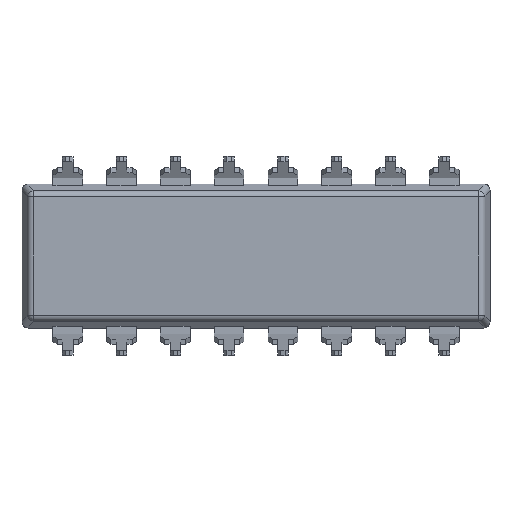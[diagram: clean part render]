
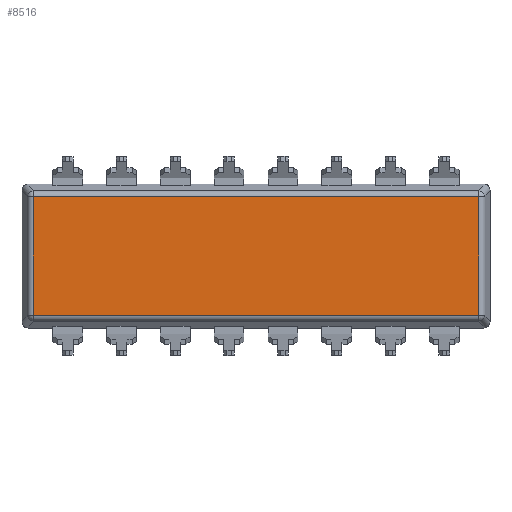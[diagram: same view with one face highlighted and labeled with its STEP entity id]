
A CAD part, front view. The second image highlights one B-rep face of the part: STEP entity #8516.
In plain terms, the highlighted planar face has unit normal (0, -1, 0).
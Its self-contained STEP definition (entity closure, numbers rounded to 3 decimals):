
#8428 = EDGE_LOOP ( 'NONE', ( #8429, #8433, #8453, #8456 ) ) ;
#8429 = ORIENTED_EDGE ( 'NONE', *, *, #8430, .T. ) ;
#8430 = EDGE_CURVE ( 'NONE', #8431, #8432, #13667, .T. ) ;
#8431 = VERTEX_POINT ( 'NONE', #13663 ) ;
#8432 = VERTEX_POINT ( 'NONE', #13662 ) ;
#8433 = ORIENTED_EDGE ( 'NONE', *, *, #8451, .T. ) ;
#8451 = EDGE_CURVE ( 'NONE', #8432, #8452, #13702, .T. ) ;
#8452 = VERTEX_POINT ( 'NONE', #13698 ) ;
#8453 = ORIENTED_EDGE ( 'NONE', *, *, #8454, .T. ) ;
#8454 = EDGE_CURVE ( 'NONE', #8452, #8455, #13697, .T. ) ;
#8455 = VERTEX_POINT ( 'NONE', #13693 ) ;
#8456 = ORIENTED_EDGE ( 'NONE', *, *, #8457, .T. ) ;
#8457 = EDGE_CURVE ( 'NONE', #8455, #8431, #13692, .T. ) ;
#8516 = ADVANCED_FACE ( 'NONE', ( #13813 ), #13812, .F. ) ;
#13662 = CARTESIAN_POINT ( 'NONE',  ( 10.519, 0.5, -2.787 ) ) ;
#13663 = CARTESIAN_POINT ( 'NONE',  ( -10.519, 0.5, -2.787 ) ) ;
#13664 = DIRECTION ( 'NONE',  ( 1., 0., 0. ) ) ;
#13665 = VECTOR ( 'NONE', #13664, 1000. ) ;
#13666 = CARTESIAN_POINT ( 'NONE',  ( -7.62, 0.5, -2.787 ) ) ;
#13667 = LINE ( 'NONE', #13666, #13665 ) ;
#13689 = DIRECTION ( 'NONE',  ( 0., 0., -1. ) ) ;
#13690 = VECTOR ( 'NONE', #13689, 1000. ) ;
#13691 = CARTESIAN_POINT ( 'NONE',  ( -10.519, 0.5, 3. ) ) ;
#13692 = LINE ( 'NONE', #13691, #13690 ) ;
#13693 = CARTESIAN_POINT ( 'NONE',  ( -10.519, 0.5, 2.787 ) ) ;
#13694 = DIRECTION ( 'NONE',  ( -1., 0., 0. ) ) ;
#13695 = VECTOR ( 'NONE', #13694, 1000. ) ;
#13696 = CARTESIAN_POINT ( 'NONE',  ( -7.62, 0.5, 2.787 ) ) ;
#13697 = LINE ( 'NONE', #13696, #13695 ) ;
#13698 = CARTESIAN_POINT ( 'NONE',  ( 10.519, 0.5, 2.787 ) ) ;
#13699 = DIRECTION ( 'NONE',  ( 0., 0., 1. ) ) ;
#13700 = VECTOR ( 'NONE', #13699, 1000. ) ;
#13701 = CARTESIAN_POINT ( 'NONE',  ( 10.519, 0.5, 3. ) ) ;
#13702 = LINE ( 'NONE', #13701, #13700 ) ;
#13811 = AXIS2_PLACEMENT_3D ( 'NONE', #13865, #13864, #13863 ) ;
#13812 = PLANE ( 'NONE',  #13811 ) ;
#13813 = FACE_OUTER_BOUND ( 'NONE', #8428, .T. ) ;
#13863 = DIRECTION ( 'NONE',  ( 0., 0., 1. ) ) ;
#13864 = DIRECTION ( 'NONE',  ( 0., 1., 0. ) ) ;
#13865 = CARTESIAN_POINT ( 'NONE',  ( -7.62, 0.5, 3. ) ) ;
